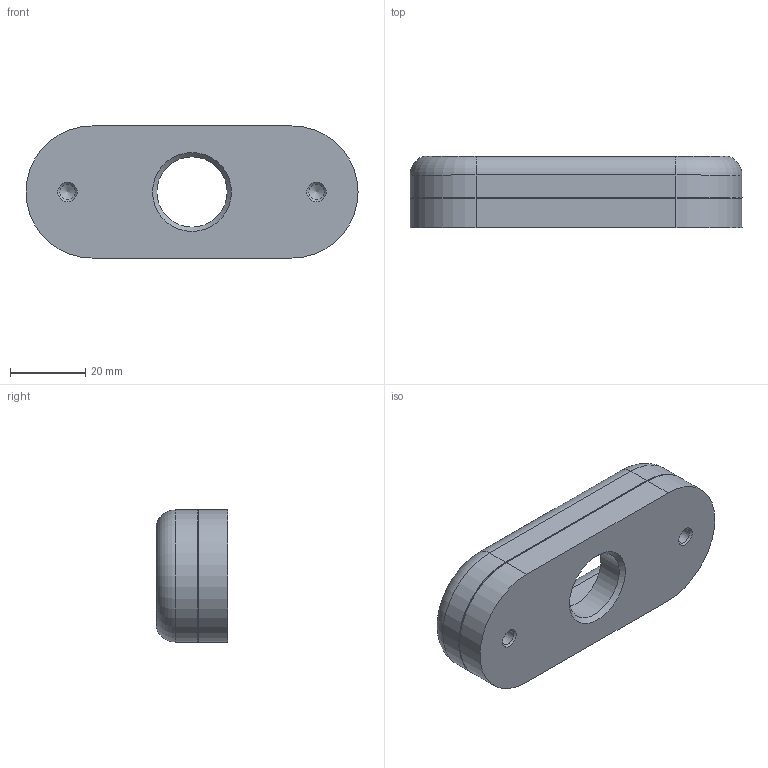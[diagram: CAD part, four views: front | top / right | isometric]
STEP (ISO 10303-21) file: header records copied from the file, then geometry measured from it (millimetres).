
FILE_DESCRIPTION( ( 'Unknown' ), '1' );
FILE_NAME( 'C:/Documents and Settings/茄惫春概平/官帕 拳搁/VS 30X80.stp', 'Unknown', ( 'Unknown' ), ( 'Unknown' ), 'PSStep 10.0', 'Unknown', ' ' );
FILE_SCHEMA( ( 'automotive_design' ) );
Length unit declared in the file: millimetre
Products named in the file (1): 1
Bounding box: 88 x 19 x 35 mm (x, y, z)
Volume: 34975.6 mm3; surface area: 10919 mm2
Topology: 1 solids, 1 shells, 37 faces, 84 edges, 51 vertices
Faces by surface type: cylinder 15, plane 10, torus 6, cone 5, bspline 1
Full cylindrical faces by diameter (mm): 4.134 x2, 18.631 x1
Entity records: 1794 total; most frequent: CARTESIAN_POINT 671, DIRECTION 180, ORIENTED_EDGE 146, AXIS2_PLACEMENT_3D 74, EDGE_CURVE 73, VERTEX_POINT 51, EDGE_LOOP 50, FACE_OUTER_BOUND 41
